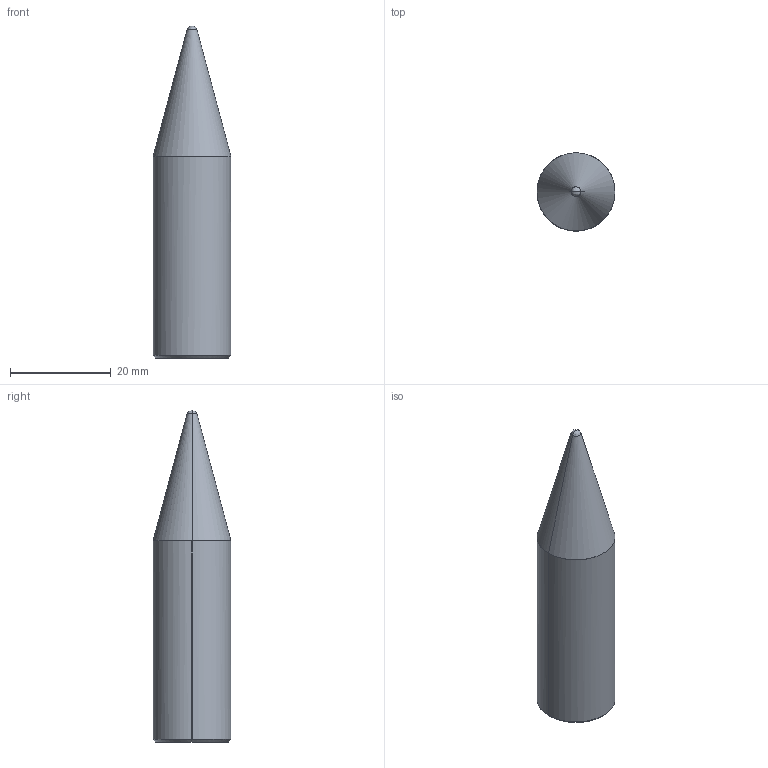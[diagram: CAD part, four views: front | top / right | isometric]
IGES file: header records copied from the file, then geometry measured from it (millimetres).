
Global section: file name: E:\UnigraphicsGraphicData\MISUMI_PRESS-PARTS\IGES\3d_snsth16-p15.50-b40_02978_r00.igs; native system: NX V5.0; preprocessor: UGS NX IGES V5.0; author: MISUMI; date: 20110105.162855; units: millimetre
Bounding box: 15.5 x 15.47 x 66.06 mm (x, y, z)
Surface area: 3071 mm2 (no closed solid volume)
Topology: 0 solids, 0 shells, 12 faces, 64 edges, 62 vertices
Faces by surface type: bspline 12
